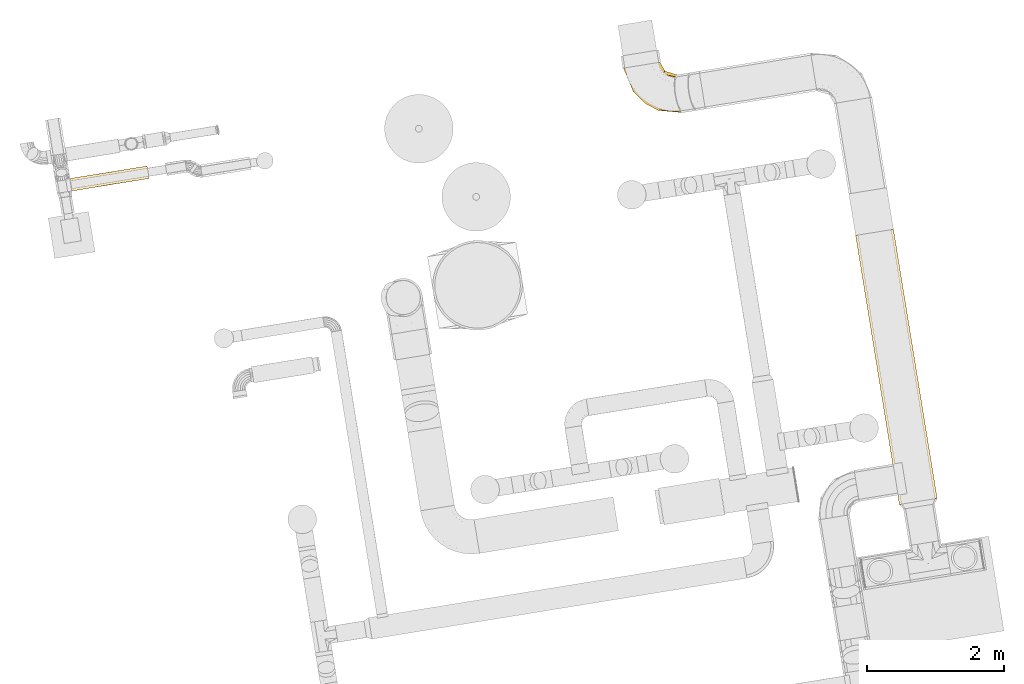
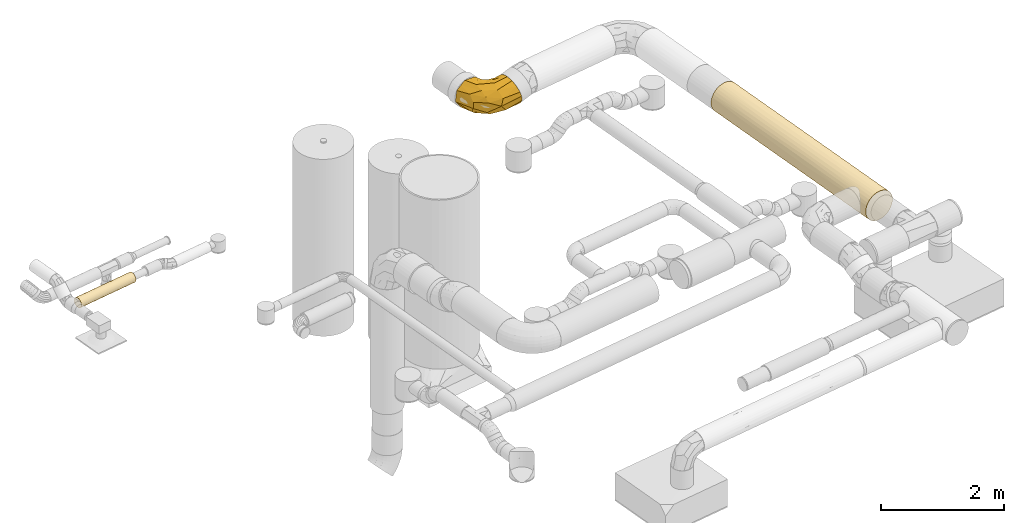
# One storey, part 5 of 39: 3 coverings.
"""IFC2X3 building model written with IfcOpenShell, lengths in millimetres."""

from ifc_helpers import new_model, entity, si_unit, converted_unit, derived_unit, direction, frame, origin, origin_with_axes, place, context, subcontext, project, spatial, faceted_brep, type_object, element, save


model = new_model("IFC2X3")

# Units and contexts
model_context = context("Model", 3, precision=0.01, world=origin(), true_north=direction((6.12323399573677e-17, 1.0)))
plan_context = context("Plan", 3, precision=1e-05, world=origin_with_axes())
body_context = subcontext(model_context, "Body", "Model", "MODEL_VIEW")
ifc_project = project(units=[converted_unit("PLANEANGLEUNIT", "DEGREE", entity("IfcPositiveLengthMeasure", 0.0174532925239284), si_unit("PLANEANGLEUNIT", "RADIAN"), dimensions=[0, 0, 0, 0, 0, 0, 0]), si_unit("AREAUNIT", "SQUARE_METRE"), si_unit("LENGTHUNIT", "METRE", prefix="MILLI"), si_unit("MASSUNIT", "GRAM", prefix="KILO"), si_unit("POWERUNIT", "WATT"), si_unit("PRESSUREUNIT", "PASCAL", prefix="KILO"), si_unit("FORCEUNIT", "NEWTON", prefix="KILO"), si_unit("ELECTRICVOLTAGEUNIT", "VOLT"), si_unit("ELECTRICCURRENTUNIT", "AMPERE"), si_unit("THERMODYNAMICTEMPERATUREUNIT", "DEGREE_CELSIUS"), si_unit("TIMEUNIT", "SECOND"), si_unit("VOLUMEUNIT", "CUBIC_METRE"), derived_unit("LINEARVELOCITYUNIT", [(si_unit("LENGTHUNIT", "METRE"), 1), (si_unit("TIMEUNIT", "SECOND"), -1)]), derived_unit("VOLUMETRICFLOWRATEUNIT", [(si_unit("VOLUMEUNIT", "CUBIC_METRE"), 1), (si_unit("TIMEUNIT", "SECOND"), -1)]), derived_unit("THERMALTRANSMITTANCEUNIT", [(si_unit("POWERUNIT", "WATT"), 1), (si_unit("THERMODYNAMICTEMPERATUREUNIT", "KELVIN"), -1), (si_unit("AREAUNIT", "SQUARE_METRE"), -1)]), derived_unit("SOUNDPRESSUREUNIT", [(si_unit("PRESSUREUNIT", "PASCAL"), 1)])], contexts=[model_context, plan_context])

# Site, building, storey
site_placement = place(None, frame((-0.00071070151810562, 0.00438415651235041, 0.0), z_axis=(0.0, 0.0, 1.0), x_axis=(-0.160236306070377, 0.987078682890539, 0.0)))
site = spatial("IfcSite", under=ifc_project, at=site_placement, Name="Default", CompositionType="ELEMENT")
building_placement = place(site_placement, origin_with_axes())
building = spatial("IfcBuilding", under=site, at=building_placement, CompositionType="ELEMENT")
storey_placement = place(building_placement, frame((0.0, 0.0, 50999.9999999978), z_axis=(0.0, 0.0, 1.0), x_axis=(1.0, 0.0, 0.0)))
storey = spatial("IfcBuildingStorey", under=building, at=storey_placement, Name="Nivå D", CompositionType="ELEMENT", Elevation=50999.9999999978)

# Coverings
covering_type_1 = type_object("IfcCoveringType", Name="Duct Insulation:MuT030", PredefinedType="INSULATION")
covering_1_placement = place(storey_placement, frame((778930.170701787, -591657.752354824, 2994.10478670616), z_axis=(0.0, 0.0, 1.0), x_axis=(1.0, 0.0, 0.0)))
element("IfcCovering", 1, at=covering_1_placement, inside=storey, type_object=covering_type_1, Name="Duct Insulation:MuT030", ObjectType="Duct Insulation:MuT030", PredefinedType="INSULATION", context=body_context, shape_type="Brep", body=[
    faceted_brep([(70.1545105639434, 1142.77129737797, -4.75584713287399), (94.0952722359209, 1142.77132141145, -1.60398606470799), (118.036033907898, 1142.77129737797, -4.75584713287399), (140.345272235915, 1142.77122691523, -13.9966362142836), (159.502649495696, 1142.77111482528, -28.6966088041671), (174.202622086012, 1142.77096874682, -47.8539860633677), (183.443411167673, 1142.7707986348, -70.1632243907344), (186.595272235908, 1142.77061608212, -94.1039860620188), (183.443411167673, 1142.77043352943, -118.044747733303), (174.202622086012, 1142.77026341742, -140.35398606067), (159.502649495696, 1142.77011733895, -159.51136331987), (140.345272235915, 1142.770005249, -174.211335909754), (118.036033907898, 1142.76993478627, -183.452124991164), (94.0952722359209, 1142.76991075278, -186.60398605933), (70.1545105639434, 1142.76993478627, -183.452124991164), (47.845272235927, 1142.770005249, -174.211335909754), (28.687894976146, 1142.77011733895, -159.51136331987), (13.9879223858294, 1142.77026341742, -140.353986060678), (4.74713330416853, 1142.77043352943, -118.044747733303), (1.59527223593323, 1142.77061608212, -94.1039860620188), (4.74713330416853, 1142.7707986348, -70.1632243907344), (13.9879223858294, 1142.77096874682, -47.8539860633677), (28.687894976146, 1142.77111482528, -28.6966088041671), (47.845272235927, 1142.77122691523, -13.9966362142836), (47.845272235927, 0.00131616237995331, -13.9879223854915), (28.687894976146, 0.00120407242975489, -28.687894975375), (13.9879223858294, 0.00105799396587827, -47.8452722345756), (4.74713330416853, 0.000887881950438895, -70.1545105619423), (1.59527223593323, 0.000705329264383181, -94.0952722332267), (4.74713330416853, 0.000522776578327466, -118.036033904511), (13.9879223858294, 0.000352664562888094, -140.345272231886), (28.687894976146, 0.000206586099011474, -159.502649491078), (47.845272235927, 9.44961488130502e-05, -174.202622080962), (70.1545105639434, 2.40334129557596e-05, -183.443411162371), (94.0952722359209, 0.0, -186.595272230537), (118.036033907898, 2.40334129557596e-05, -183.443411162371), (140.345272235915, 9.44961488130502e-05, -174.202622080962), (159.502649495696, 0.000206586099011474, -159.502649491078), (174.202622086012, 0.000352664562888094, -140.345272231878), (183.443411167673, 0.000522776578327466, -118.036033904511), (186.595272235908, 0.000705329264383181, -94.0952722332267), (183.443411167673, 0.000887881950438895, -70.1545105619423), (174.202622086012, 0.00105799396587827, -47.8452722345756), (159.502649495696, 0.00120407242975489, -28.687894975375), (140.345272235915, 0.00131616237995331, -13.9879223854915), (118.036033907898, 0.0013866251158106, -4.7471333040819), (94.0952722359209, 0.00141065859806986, -1.5952722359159), (70.1545105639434, 0.0013866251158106, -4.7471333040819), (167.480456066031, 461.345673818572, -150.409222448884), (112.141126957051, 739.975498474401, -184.823553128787), (179.554128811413, 571.385386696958, -129.497847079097), (184.81791059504, 402.794987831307, -112.14419879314), (185.326808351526, 794.637480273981, -109.367530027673), (186.595272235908, 571.385660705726, -94.0996291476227), (150.405704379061, 681.424652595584, -167.485652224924), (129.493489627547, 571.385008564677, -179.558485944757), (109.361470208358, 348.133023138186, -185.32946301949), (94.0952722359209, 471.126599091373, -186.598864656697), (94.0952722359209, 571.384955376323, -186.599629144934), (78.1144973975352, 741.898692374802, -185.210011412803), (70.27204282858, 390.794752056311, -183.477800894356), (58.6970547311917, 681.424563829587, -179.559324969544), (37.7848400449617, 571.385101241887, -167.484813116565), (8.63641546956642, 571.385390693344, -129.497846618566), (20.7100882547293, 681.424786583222, -150.410900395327), (2.86373603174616, 348.133602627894, -109.364124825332), (1.59527223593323, 471.127851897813, -94.0988646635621), (1.59527223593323, 571.385660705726, -94.0996291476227), (3.37263379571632, 739.976052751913, -112.14676945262), (2.98619016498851, 741.899509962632, -78.1201545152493), (4.71572344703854, 390.795615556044, -70.2750227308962), (8.63641547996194, 681.425486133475, -58.7022507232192), (20.7100882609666, 571.386090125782, -37.7891969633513), (58.6970547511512, 571.386312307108, -8.64077238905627), (37.7848400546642, 681.425775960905, -20.7152842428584), (78.8290742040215, 348.134414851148, -2.86639061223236), (94.0952722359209, 471.128557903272, -1.59886466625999), (94.0952722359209, 571.38636603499, -1.59962915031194), (76.0494174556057, 739.976882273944, -3.37827624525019), (110.076047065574, 741.9000831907, -2.99184727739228), (117.918501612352, 390.796115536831, -4.71870332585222), (129.493489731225, 681.42586814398, -8.64161146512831), (150.405704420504, 571.386220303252, -20.7144451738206), (179.554128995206, 571.385930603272, -58.7014116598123), (167.480456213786, 681.425645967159, -37.7900360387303), (185.326808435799, 348.133835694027, -78.831728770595), (184.817910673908, 739.976328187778, -76.0550598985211)], [[[0, 1, 2, 3, 4, 5, 6, 7, 8, 9, 10, 11, 12, 13, 14, 15, 16, 17, 18, 19, 20, 21, 22, 23]], [[24, 25, 26, 27, 28, 29, 30, 31, 32, 33, 34, 35, 36, 37, 38, 39, 40, 41, 42, 43, 44, 45, 46, 47]], [[38, 37, 48]], [[49, 13, 12]], [[39, 38, 50]], [[51, 39, 50]], [[8, 50, 9]], [[52, 7, 53]], [[9, 48, 10]], [[39, 51, 40]], [[50, 48, 9]], [[37, 36, 54]], [[48, 50, 38]], [[11, 55, 12]], [[55, 36, 35]], [[40, 51, 53]], [[52, 50, 8]], [[56, 34, 57, 58]], [[54, 55, 11]], [[54, 36, 55]], [[10, 48, 54]], [[10, 54, 11]], [[55, 49, 12]], [[58, 49, 56]], [[54, 48, 37]], [[50, 52, 51]], [[7, 52, 8]], [[53, 51, 52]], [[56, 55, 35]], [[13, 49, 58]], [[55, 56, 49]], [[34, 56, 35]], [[59, 60, 61]], [[57, 60, 59]], [[57, 34, 60]], [[61, 62, 15]], [[62, 61, 32]], [[60, 34, 33]], [[30, 63, 64]], [[59, 13, 58, 57]], [[61, 15, 14]], [[32, 31, 62]], [[62, 16, 15]], [[32, 60, 33]], [[63, 30, 29]], [[63, 17, 64]], [[31, 64, 62]], [[65, 28, 66, 67]], [[16, 62, 64]], [[30, 64, 31]], [[59, 61, 14]], [[17, 16, 64]], [[63, 68, 18]], [[17, 63, 18]], [[61, 60, 32]], [[67, 68, 65]], [[13, 59, 14]], [[68, 19, 18]], [[65, 63, 29]], [[19, 68, 67]], [[63, 65, 68]], [[28, 65, 29]], [[69, 70, 71]], [[66, 70, 69]], [[66, 28, 70]], [[71, 72, 21]], [[72, 71, 26]], [[70, 28, 27]], [[24, 73, 74]], [[69, 19, 67, 66]], [[71, 21, 20]], [[26, 25, 72]], [[72, 22, 21]], [[26, 70, 27]], [[73, 24, 47]], [[73, 23, 74]], [[25, 74, 72]], [[75, 46, 76, 77]], [[22, 72, 74]], [[24, 74, 25]], [[69, 71, 20]], [[23, 22, 74]], [[73, 78, 0]], [[23, 73, 0]], [[71, 70, 26]], [[77, 78, 75]], [[19, 69, 20]], [[78, 1, 0]], [[75, 73, 47]], [[1, 78, 77]], [[73, 75, 78]], [[46, 75, 47]], [[79, 80, 81]], [[76, 80, 79]], [[76, 46, 80]], [[81, 82, 3]], [[82, 81, 44]], [[80, 46, 45]], [[42, 83, 84]], [[79, 1, 77, 76]], [[81, 3, 2]], [[44, 43, 82]], [[82, 4, 3]], [[44, 80, 45]], [[83, 42, 41]], [[83, 5, 84]], [[43, 84, 82]], [[85, 40, 53]], [[4, 82, 84]], [[42, 84, 43]], [[79, 81, 2]], [[5, 4, 84]], [[83, 86, 6]], [[5, 83, 6]], [[81, 80, 44]], [[53, 86, 85]], [[1, 79, 2]], [[86, 7, 6]], [[85, 83, 41]], [[7, 86, 53]], [[83, 85, 86]], [[40, 85, 41]]]),
])
covering_type_2 = type_object("IfcCoveringType", Name="Duct Insulation:EI 60-30", PredefinedType="INSULATION")
covering_2_placement = place(storey_placement, frame((778630.02437183, -599569.932596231, 3501.46402614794), z_axis=(0.0, 0.0, 1.0), x_axis=(1.0, 0.0, 0.0)))
element("IfcCovering", 2, at=covering_2_placement, inside=storey, type_object=covering_type_2, Name="Duct Insulation:EI 60-30", ObjectType="Duct Insulation:EI 60-30", PredefinedType="INSULATION", context=body_context, shape_type="Brep", body=[
    faceted_brep([(468.94818216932, 127.920667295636, -71.0609423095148), (368.11387792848, 142.987553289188, -14.8305582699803), (281.595272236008, 146.533937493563, -1.59527223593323), (167.706450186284, 140.268339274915, -24.9788031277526), (73.5114258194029, 122.555106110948, -91.0854892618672), (15.2974486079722, 96.4572677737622, -188.483947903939), (1.59527223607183, 74.0646048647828, -272.054503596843), (25.8036847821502, 44.5880086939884, -382.062658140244), (94.242362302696, 20.2085424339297, -473.048064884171), (195.076666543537, 5.14165644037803, -529.278448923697), (281.595272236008, 1.59527223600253, -542.513734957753), (395.484094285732, 7.86087045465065, -519.130204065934), (489.679118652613, 25.5741036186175, -453.023517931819), (547.893095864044, 51.6719419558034, -355.625059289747), (561.595272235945, 74.0646048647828, -272.054503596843), (537.386859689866, 103.541201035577, -162.046349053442), (781.595272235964, 314.540404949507, -541.46402614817), (781.595272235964, 400.635979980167, -607.527484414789), (781.595272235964, 484.558185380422, -671.923257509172), (781.595272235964, 590.792851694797, -657.937198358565), (781.595272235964, 697.027518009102, -643.951139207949), (781.595272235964, 761.308293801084, -560.178801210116), (781.595272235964, 827.486749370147, -473.93335877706), (781.595272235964, 813.297246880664, -366.153386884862), (781.595272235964, 799.514631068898, -261.464026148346), (781.595272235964, 713.039593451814, -195.109395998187), (781.595272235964, 629.496850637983, -131.004794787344), (781.595272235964, 523.262184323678, -144.99085393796), (781.595272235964, 417.027518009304, -158.976913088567), (781.595272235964, 351.797902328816, -243.985803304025), (781.595272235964, 286.568286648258, -328.994693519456), (781.595272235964, 300.554345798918, -435.229359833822), (419.11119804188, 741.186782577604, -450.809352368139), (421.572264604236, 743.626538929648, -326.069203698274), (208.001378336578, 409.921322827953, -110.679050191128), (526.469776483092, 735.592687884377, -224.348039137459), (255.025385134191, 582.692058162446, -408.340818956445), (554.600022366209, 576.85704404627, -116.900001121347), (646.71958459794, 598.21941150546, -122.624030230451), (395.812066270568, 594.211912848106, -143.742338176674), (336.092010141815, 365.794511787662, -60.3459660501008), (90.413938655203, 388.855759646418, -226.829278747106), (283.110219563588, 600.78233762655, -211.567964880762), (220.629624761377, 593.607515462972, -295.646471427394), (90.9395722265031, 424.197333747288, -365.872285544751), (313.976063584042, 276.813862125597, -36.5036728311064), (445.346016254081, 471.325777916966, -88.6229835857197), (637.341866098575, 477.380373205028, -118.951940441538), (506.338027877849, 229.528444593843, -114.895908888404), (600.94689140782, 268.826339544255, -198.93312641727), (548.054322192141, 352.833980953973, -118.462010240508), (670.896169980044, 372.6287048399, -167.7620666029), (693.56495328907, 307.353334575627, -241.934987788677), (387.138348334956, 244.464629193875, -43.8124801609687), (440.086897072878, 330.126870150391, -72.5312838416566), (590.957769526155, 132.958893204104, -287.835180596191), (644.427515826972, 240.206673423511, -316.572136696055), (572.374168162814, 162.96198500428, -407.720344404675), (656.91569099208, 246.033982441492, -429.721074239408), (445.346016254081, 326.387112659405, -629.541446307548), (554.600022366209, 431.918378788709, -657.818463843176), (556.00100445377, 313.330755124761, -602.163613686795), (669.854805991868, 369.208653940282, -618.134872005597), (646.719583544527, 453.280746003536, -663.542492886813), (672.2185448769, 287.973553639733, -524.800053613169), (571.700740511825, 226.0555811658, -511.368700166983), (455.557518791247, 209.214952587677, -573.509544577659), (336.092010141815, 220.855846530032, -601.26442877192), (511.26422446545, 133.430266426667, -482.657650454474), (313.976062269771, 131.875191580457, -577.422134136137), (427.079840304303, 101.051650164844, -534.231682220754), (433.649995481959, 484.201673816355, -650.917779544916), (294.359102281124, 491.24272871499, -597.660613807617), (532.452082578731, 625.694122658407, -644.648939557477), (239.214728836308, 285.870477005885, -593.567290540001), (496.867758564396, 726.794140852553, -556.085358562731), (261.224608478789, 586.100425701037, -511.622725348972), (106.434584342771, 322.346075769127, -492.103695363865)], [[[0, 1, 2, 3, 4, 5, 6, 7, 8, 9, 10, 11, 12, 13, 14, 15]], [[16, 17, 18, 19, 20, 21, 22, 23, 24, 25, 26, 27, 28, 29, 30, 31]], [[23, 32, 33]], [[34, 4, 3]], [[35, 25, 24]], [[33, 32, 36]], [[25, 37, 38, 26]], [[35, 39, 25]], [[39, 37, 25]], [[40, 39, 34]], [[41, 42, 43]], [[23, 33, 24]], [[44, 6, 5]], [[33, 42, 35]], [[34, 39, 42]], [[5, 4, 41]], [[34, 2, 45, 40]], [[34, 41, 4]], [[33, 35, 24]], [[32, 23, 22]], [[41, 43, 44]], [[5, 41, 44]], [[39, 40, 46, 37]], [[35, 42, 39]], [[41, 34, 42]], [[34, 3, 2]], [[43, 42, 33]], [[33, 36, 43]], [[44, 43, 36]], [[38, 47, 27]], [[48, 49, 50]], [[29, 51, 52]], [[49, 52, 51]], [[28, 51, 29]], [[47, 51, 28]], [[47, 46, 50]], [[14, 49, 15]], [[45, 2, 1]], [[53, 48, 54]], [[51, 50, 49]], [[46, 54, 50]], [[53, 0, 48]], [[49, 14, 55, 56]], [[52, 30, 29]], [[51, 47, 50]], [[54, 46, 40]], [[48, 0, 15]], [[47, 28, 27]], [[38, 37, 47]], [[27, 26, 38]], [[49, 48, 15]], [[48, 50, 54]], [[47, 37, 46]], [[1, 53, 45]], [[45, 53, 40]], [[0, 53, 1]], [[40, 53, 54]], [[49, 56, 52]], [[30, 52, 56]], [[57, 58, 56]], [[59, 60, 61]], [[62, 63, 17]], [[64, 58, 65]], [[61, 65, 66]], [[55, 57, 56]], [[13, 55, 14]], [[64, 65, 61]], [[67, 59, 66]], [[68, 13, 12]], [[64, 61, 62]], [[57, 68, 65]], [[11, 10, 69]], [[66, 70, 67]], [[57, 65, 58]], [[58, 64, 31]], [[59, 61, 66]], [[57, 55, 13]], [[31, 30, 58]], [[30, 56, 58]], [[70, 11, 69]], [[68, 66, 65]], [[11, 70, 12]], [[64, 16, 31]], [[13, 68, 57]], [[68, 12, 70]], [[62, 17, 16]], [[64, 62, 16]], [[61, 60, 62]], [[63, 62, 60]], [[63, 18, 17]], [[70, 69, 67]], [[68, 70, 66]], [[71, 72, 73]], [[71, 18, 63, 60]], [[74, 67, 69, 10]], [[73, 20, 19]], [[20, 73, 75]], [[71, 60, 59, 67]], [[72, 76, 75]], [[7, 44, 77]], [[74, 72, 71]], [[19, 71, 73]], [[74, 8, 77]], [[32, 22, 75]], [[19, 18, 71]], [[77, 76, 72]], [[44, 7, 6]], [[77, 72, 74]], [[44, 76, 77]], [[7, 77, 8]], [[75, 76, 32]], [[74, 10, 9]], [[22, 21, 20, 75]], [[76, 44, 36, 32]], [[67, 74, 71]], [[74, 9, 8]], [[72, 75, 73]]]),
])
covering_3_placement = place(storey_placement, frame((772486.932124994, -602254.500350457, 3018.40472776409), z_axis=(0.0, 0.0, 1.0), x_axis=(1.0, 0.0, 0.0)))
element("IfcCovering", 3, at=covering_3_placement, inside=storey, type_object=covering_type_2, Name="Duct Insulation:EI 60-30", ObjectType="Duct Insulation:EI 60-30", PredefinedType="INSULATION", context=body_context, shape_type="Brep", body=[
    faceted_brep([(0.0, 48.7837807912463, 126.035606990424), (0.0, 22.9090031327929, 174.443911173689), (0.0, 6.97539372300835, 226.969982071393), (0.0, 1.59527223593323, 281.595272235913), (0.0, 6.97539372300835, 336.220562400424), (0.0, 22.9090031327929, 388.746633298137), (0.0, 48.7837807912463, 437.154937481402), (0.0, 83.6053735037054, 479.585170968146), (0.0, 126.035606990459, 514.406763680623), (0.0, 174.443911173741, 540.281541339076), (0.0, 226.969982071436, 556.215150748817), (0.0, 281.595272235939, 561.59527223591), (0.0, 336.220562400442, 556.215150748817), (0.0, 388.746633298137, 540.281541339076), (0.0, 437.154937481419, 514.406763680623), (0.0, 479.585170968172, 479.585170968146), (0.0, 514.406763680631, 437.154937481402), (0.0, 540.281541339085, 388.746633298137), (0.0, 556.215150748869, 336.220562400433), (0.0, 561.595272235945, 281.595272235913), (0.0, 556.215150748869, 226.969982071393), (0.0, 540.281541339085, 174.443911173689), (0.0, 514.406763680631, 126.035606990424), (0.0, 479.585170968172, 83.6053735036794), (0.0, 437.154937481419, 48.783780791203), (0.0, 388.746633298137, 22.9090031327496), (0.0, 336.220562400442, 6.97539372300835), (0.0, 281.595272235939, 1.5952722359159), (0.0, 226.969982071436, 6.97539372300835), (0.0, 174.443911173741, 22.9090031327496), (0.0, 126.035606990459, 48.783780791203), (0.0, 83.6053735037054, 83.6053735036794), (3974.3266785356, 22.9090031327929, 388.746633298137), (3974.3266785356, 6.97539372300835, 336.220562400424), (3974.3266785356, 1.59527223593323, 281.595272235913), (3974.3266785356, 6.97539372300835, 226.969982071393), (3974.3266785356, 22.9090031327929, 174.443911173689), (3974.3266785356, 48.7837807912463, 126.035606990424), (3974.3266785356, 83.6053735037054, 83.6053735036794), (3974.3266785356, 126.035606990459, 48.783780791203), (3974.3266785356, 174.443911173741, 22.9090031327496), (3974.3266785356, 226.969982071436, 6.97539372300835), (3974.3266785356, 281.595272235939, 1.5952722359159), (3974.3266785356, 336.220562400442, 6.97539372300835), (3974.3266785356, 388.746633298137, 22.9090031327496), (3974.3266785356, 437.154937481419, 48.783780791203), (3974.3266785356, 479.585170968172, 83.6053735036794), (3974.3266785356, 514.406763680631, 126.035606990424), (3974.3266785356, 540.281541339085, 174.443911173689), (3974.3266785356, 556.215150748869, 226.969982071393), (3974.3266785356, 561.595272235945, 281.595272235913), (3974.3266785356, 556.215150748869, 336.220562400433), (3974.3266785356, 540.281541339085, 388.746633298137), (3974.3266785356, 514.406763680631, 437.154937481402), (3974.3266785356, 479.585170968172, 479.585170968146), (3974.3266785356, 437.154937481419, 514.406763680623), (3974.3266785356, 388.746633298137, 540.281541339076), (3974.3266785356, 336.220562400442, 556.215150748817), (3974.3266785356, 281.595272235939, 561.59527223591), (3974.3266785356, 226.969982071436, 556.215150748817), (3974.3266785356, 174.443911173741, 540.281541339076), (3974.3266785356, 126.035606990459, 514.406763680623), (3974.3266785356, 83.6053735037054, 479.585170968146), (3974.3266785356, 48.7837807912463, 437.154937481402), (3010.04877213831, 553.369893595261, 214.226472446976), (2894.7467969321, 528.533225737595, 149.604184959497), (1423.57274419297, 413.586357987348, 34.6573179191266), (2072.42737159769, 422.321265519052, 39.5287631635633), (2232.40703295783, 347.526941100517, 9.46843592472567), (1096.95944157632, 549.538565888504, 200.315561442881), (3393.26494240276, 413.586358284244, 34.6573180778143), (3211.42252894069, 459.225391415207, 65.1523449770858), (3155.71056725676, 281.595272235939, 1.5952722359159), (2805.7788556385, 281.595272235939, 1.5952722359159), (818.615516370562, 281.595272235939, 1.5952722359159), (818.615505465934, 561.595272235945, 281.595272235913), (1501.97425182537, 527.511215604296, 147.709691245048), (694.131607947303, 529.78646559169, 151.976093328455), (831.831168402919, 362.874981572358, 13.6519781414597), (2860.87528409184, 495.690417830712, 101.142318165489), (2721.28199874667, 413.586358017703, 34.657317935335), (3211.42252946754, 362.874981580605, 13.6519781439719), (964.915595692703, 498.03819865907, 103.965152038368), (1637.23101093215, 561.595272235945, 281.595272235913), (2154.88001970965, 551.487153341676, 207.040778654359), (1505.14584319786, 339.927698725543, 7.73887187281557), (1987.16333991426, 498.038198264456, 103.965151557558), (1708.40559499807, 459.145553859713, 65.0868486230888), (775.274656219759, 411.527219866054, 33.5676750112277), (956.822728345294, 454.099366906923, 61.0451932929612), (2198.32476695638, 528.096862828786, 148.791033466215), (2805.77884473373, 561.595272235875, 281.595272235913), (2438.41873554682, 462.091662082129, 67.5367446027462), (2337.09445597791, 281.595272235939, 1.5952722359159), (1637.23103274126, 281.595272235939, 1.5952722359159), (1168.55335627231, 281.595272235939, 1.5952722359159), (2877.36722086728, 200.315562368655, 13.651978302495), (1131.35899233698, 101.94381255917, 66.827134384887), (3393.26494207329, 34.657318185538, 149.604185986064), (3057.27347036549, 63.0515980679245, 106.556240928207), (2498.28720985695, 146.488239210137, 36.3482750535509), (3009.41108089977, 103.965152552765, 65.1523453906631), (1987.16333927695, 103.965152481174, 65.1523454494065), (1819.4466637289, 207.040779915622, 11.7033907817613), (964.277916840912, 214.226473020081, 9.82065073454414), (3232.75836637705, 151.641302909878, 33.5792125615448), (1560.85686744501, 69.2636315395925, 99.0705496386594), (831.831169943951, 13.6519782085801, 200.315562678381), (818.615519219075, 1.59527223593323, 281.595272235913), (1079.57988547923, 149.60418576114, 34.6573183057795), (2284.82591228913, 63.2158888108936, 106.351314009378), (1789.82390183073, 150.125307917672, 34.3794788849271), (621.356914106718, 34.6573181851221, 149.604185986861), (1423.57274670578, 34.6573181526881, 149.60418604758), (3211.42252920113, 13.6519782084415, 200.315562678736), (2721.28199899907, 34.6573181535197, 149.604186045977), (831.831170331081, 65.1523452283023, 103.965152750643), (2072.4273728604, 35.5755752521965, 147.900438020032), (2232.40703137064, 9.46843598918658, 215.663603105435), (1505.14584294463, 7.7388718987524, 223.262845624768), (3155.71115946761, 1.59527223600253, 281.595272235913), (2805.77885848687, 1.59527223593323, 281.595272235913), (2337.09564039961, 1.59527223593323, 281.595272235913), (1637.23103843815, 1.59527223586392, 281.595272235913), (1168.54782019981, 1.59527223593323, 281.595272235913), (2877.36722024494, 13.651978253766, 362.874981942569), (1131.35899260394, 66.8271343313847, 461.24673184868), (3393.26494177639, 149.604185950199, 528.533226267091), (3057.27347014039, 106.556240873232, 500.138946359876), (2498.28720990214, 36.3482749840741, 416.702305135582), (3009.41108072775, 65.1523453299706, 459.225391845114), (1987.16333926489, 65.1523453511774, 459.225391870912), (1819.44666537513, 11.7033908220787, 356.149764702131), (964.277922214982, 9.82065072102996, 348.964071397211), (3232.75836546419, 33.5792125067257, 411.549241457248), (1560.85686735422, 99.0705495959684, 493.926912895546), (831.831169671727, 200.315562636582, 549.538566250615), (818.615520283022, 281.595272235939, 561.59527223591), (1079.57988514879, 34.6573182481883, 413.586358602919), (2284.82591272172, 106.35131389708, 499.974655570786), (1789.82390173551, 34.379478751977, 413.065236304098), (621.356913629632, 149.604185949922, 528.533226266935), (1423.57274627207, 149.604185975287, 528.533226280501), (3211.42252919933, 200.315562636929, 549.538566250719), (2721.28199866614, 149.604185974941, 528.533226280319), (831.831169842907, 103.96515270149, 498.038199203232), (2072.4273724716, 147.900437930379, 527.614969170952), (2232.40703201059, 215.663603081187, 553.722108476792), (1505.14584320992, 223.262845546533, 555.451672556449), (3155.71115832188, 281.595272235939, 561.59527223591), (2805.77885955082, 281.595272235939, 561.59527223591), (2337.09563810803, 281.595272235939, 561.59527223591), (1637.23104056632, 281.595272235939, 561.59527223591), (1168.5478190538, 281.595272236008, 561.59527223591), (2877.3672200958, 362.874981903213, 549.538566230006), (1131.3589928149, 461.24673183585, 496.363410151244), (3393.2649416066, 528.533226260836, 413.586358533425), (3057.27346998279, 500.138946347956, 456.634303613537), (2498.28720992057, 416.70230510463, 526.842269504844), (3009.41108067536, 459.22539182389, 498.038199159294), (1987.16333926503, 459.225391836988, 498.038199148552), (1819.44666605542, 356.149764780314, 551.487153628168), (964.277924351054, 348.964071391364, 553.369893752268), (3232.7583648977, 411.549241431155, 529.611331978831), (1560.85686728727, 493.926912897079, 464.119994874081), (831.831169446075, 549.538566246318, 362.874981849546), (1079.57988499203, 413.586358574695, 528.533226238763), (2284.8259129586, 499.974655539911, 456.839230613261), (1789.82390168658, 413.065236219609, 528.811065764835), (621.356913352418, 528.533226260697, 413.586358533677), (1423.57274592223, 528.533226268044, 413.586358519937), (3211.42252921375, 549.538566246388, 362.874981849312), (2721.28199845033, 528.533226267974, 413.586358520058), (831.831169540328, 498.038199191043, 459.225391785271), (2072.42737218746, 527.614969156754, 415.290106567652), (2232.40703250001, 553.722108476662, 347.526941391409), (1505.14584340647, 555.451672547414, 339.927698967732)], [[[0, 1, 2, 3, 4, 5, 6, 7, 8, 9, 10, 11, 12, 13, 14, 15, 16, 17, 18, 19, 20, 21, 22, 23, 24, 25, 26, 27, 28, 29, 30, 31]], [[32, 33, 34, 35, 36, 37, 38, 39, 40, 41, 42, 43, 44, 45, 46, 47, 48, 49, 50, 51, 52, 53, 54, 55, 56, 57, 58, 59, 60, 61, 62, 63]], [[64, 48, 65]], [[66, 67, 68]], [[21, 20, 69]], [[70, 71, 45]], [[43, 42, 72, 73]], [[74, 27, 26]], [[49, 64, 50]], [[20, 75, 69]], [[47, 65, 48]], [[76, 77, 69]], [[69, 77, 21]], [[25, 78, 26]], [[78, 74, 26]], [[46, 79, 47]], [[80, 81, 68]], [[82, 23, 22]], [[69, 83, 84]], [[44, 70, 45]], [[85, 66, 68]], [[45, 71, 46]], [[22, 21, 77]], [[82, 86, 87]], [[88, 24, 89]], [[89, 82, 87]], [[70, 81, 80]], [[44, 43, 81]], [[82, 89, 23]], [[65, 79, 90]], [[82, 77, 76]], [[89, 66, 88]], [[91, 64, 84]], [[65, 84, 64]], [[71, 79, 46]], [[92, 87, 86]], [[43, 73, 81]], [[68, 81, 73]], [[80, 92, 71]], [[71, 92, 79]], [[68, 73, 93, 94]], [[68, 94, 85]], [[81, 70, 44]], [[71, 70, 80]], [[91, 84, 83]], [[90, 86, 76]], [[87, 67, 66]], [[86, 90, 79]], [[67, 92, 80]], [[87, 66, 89]], [[88, 66, 78]], [[23, 89, 24]], [[86, 79, 92]], [[47, 79, 65]], [[92, 67, 87]], [[68, 67, 80]], [[78, 25, 88]], [[24, 88, 25]], [[50, 64, 91]], [[48, 64, 49]], [[75, 20, 19]], [[75, 83, 69]], [[22, 77, 82]], [[84, 76, 69]], [[82, 76, 86]], [[76, 84, 90]], [[84, 65, 90]], [[85, 74, 78]], [[85, 94, 95, 74]], [[66, 85, 78]], [[41, 40, 96]], [[31, 30, 97]], [[72, 42, 41]], [[37, 98, 99]], [[100, 101, 102]], [[103, 104, 95]], [[105, 101, 100]], [[41, 96, 72]], [[106, 97, 102]], [[96, 103, 93]], [[107, 108, 2]], [[37, 99, 38]], [[30, 29, 109]], [[39, 38, 101]], [[109, 97, 30]], [[110, 106, 102]], [[36, 98, 37]], [[111, 100, 102]], [[101, 99, 110]], [[110, 102, 101]], [[105, 39, 101]], [[112, 107, 1]], [[112, 113, 107]], [[98, 114, 115]], [[36, 35, 114]], [[31, 116, 0]], [[117, 118, 119]], [[104, 27, 74, 95]], [[112, 0, 116]], [[1, 107, 2]], [[115, 114, 118]], [[104, 29, 28]], [[103, 95, 94, 93]], [[35, 34, 120, 121]], [[108, 3, 2]], [[113, 117, 119]], [[35, 121, 114]], [[118, 114, 121]], [[118, 121, 122, 123]], [[118, 123, 119]], [[114, 98, 36]], [[99, 98, 115]], [[99, 115, 110]], [[38, 99, 101]], [[115, 117, 110]], [[106, 113, 116]], [[106, 110, 117]], [[97, 106, 116]], [[97, 116, 31]], [[97, 109, 111]], [[103, 96, 100]], [[103, 109, 104]], [[118, 117, 115]], [[106, 117, 113]], [[29, 104, 109]], [[27, 104, 28]], [[96, 93, 73, 72]], [[97, 111, 102]], [[105, 100, 96]], [[96, 40, 105]], [[39, 105, 40]], [[109, 103, 111]], [[103, 100, 111]], [[0, 112, 1]], [[113, 112, 116]], [[119, 108, 107]], [[119, 123, 124, 108]], [[113, 119, 107]], [[33, 32, 125]], [[7, 6, 126]], [[120, 34, 33]], [[61, 127, 128]], [[129, 130, 131]], [[132, 133, 124]], [[134, 130, 129]], [[33, 125, 120]], [[135, 126, 131]], [[125, 132, 122]], [[136, 137, 10]], [[61, 128, 62]], [[6, 5, 138]], [[63, 62, 130]], [[138, 126, 6]], [[139, 135, 131]], [[60, 127, 61]], [[140, 129, 131]], [[130, 128, 139]], [[139, 131, 130]], [[134, 63, 130]], [[141, 136, 9]], [[141, 142, 136]], [[127, 143, 144]], [[60, 59, 143]], [[7, 145, 8]], [[146, 147, 148]], [[133, 3, 108, 124]], [[141, 8, 145]], [[9, 136, 10]], [[144, 143, 147]], [[133, 5, 4]], [[132, 124, 123, 122]], [[59, 58, 149, 150]], [[137, 11, 10]], [[142, 146, 148]], [[59, 150, 143]], [[147, 143, 150]], [[147, 150, 151, 152]], [[147, 152, 148]], [[143, 127, 60]], [[128, 127, 144]], [[128, 144, 139]], [[62, 128, 130]], [[144, 146, 139]], [[135, 142, 145]], [[135, 139, 146]], [[126, 135, 145]], [[126, 145, 7]], [[126, 138, 140]], [[132, 125, 129]], [[132, 138, 133]], [[147, 146, 144]], [[135, 146, 142]], [[5, 133, 138]], [[3, 133, 4]], [[125, 122, 121, 120]], [[126, 140, 131]], [[134, 129, 125]], [[125, 32, 134]], [[63, 134, 32]], [[138, 132, 140]], [[132, 129, 140]], [[8, 141, 9]], [[142, 141, 145]], [[148, 137, 136]], [[148, 152, 153, 137]], [[142, 148, 136]], [[57, 56, 154]], [[15, 14, 155]], [[149, 58, 57]], [[53, 156, 157]], [[158, 159, 160]], [[161, 162, 153]], [[163, 159, 158]], [[57, 154, 149]], [[164, 155, 160]], [[154, 161, 151]], [[165, 75, 18]], [[53, 157, 54]], [[14, 13, 166]], [[55, 54, 159]], [[166, 155, 14]], [[167, 164, 160]], [[52, 156, 53]], [[168, 158, 160]], [[159, 157, 167]], [[167, 160, 159]], [[163, 55, 159]], [[169, 165, 17]], [[169, 170, 165]], [[156, 171, 172]], [[52, 51, 171]], [[15, 173, 16]], [[174, 175, 176]], [[162, 11, 137, 153]], [[169, 16, 173]], [[17, 165, 18]], [[172, 171, 175]], [[162, 13, 12]], [[161, 153, 152, 151]], [[51, 50, 91]], [[75, 19, 18]], [[170, 174, 176]], [[51, 91, 171]], [[175, 171, 91]], [[91, 83, 175]], [[175, 83, 176]], [[171, 156, 52]], [[157, 156, 172]], [[157, 172, 167]], [[54, 157, 159]], [[172, 174, 167]], [[164, 170, 173]], [[164, 167, 174]], [[155, 164, 173]], [[155, 173, 15]], [[155, 166, 168]], [[161, 154, 158]], [[161, 166, 162]], [[175, 174, 172]], [[164, 174, 170]], [[13, 162, 166]], [[11, 162, 12]], [[154, 151, 150, 149]], [[155, 168, 160]], [[163, 158, 154]], [[154, 56, 163]], [[55, 163, 56]], [[166, 161, 168]], [[161, 158, 168]], [[16, 169, 17]], [[170, 169, 173]], [[176, 75, 165]], [[75, 176, 83]], [[170, 176, 165]]]),
])

save(model, "model.ifc")
